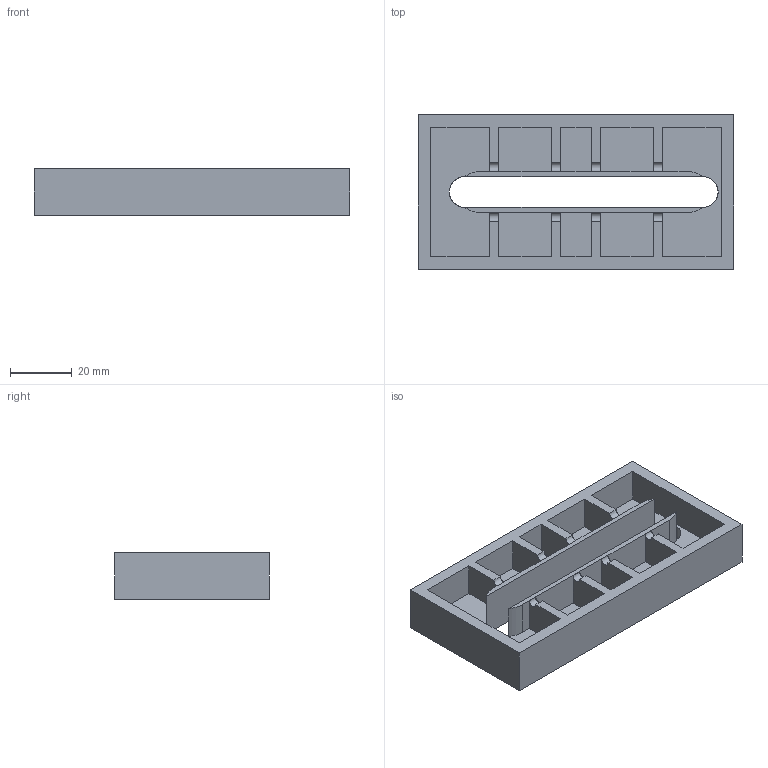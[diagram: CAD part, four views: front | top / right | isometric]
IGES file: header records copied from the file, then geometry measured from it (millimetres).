
Start section: SolidWorks IGES file using analytic representation for surfaces
Global section: file name: C:\Documents and Settings\ARGE\Desktop\yeni katalog tolgay düzenli\B kataloðu\KONSOL TABANI\export\210 410 300.IGS; native system: SolidWorks 2006 by SolidWorks Corporation; preprocessor: SolidWorks 2006 by SolidWorks Corporation; author: ARGE2; date: 060911.191716; units: millimetre
Bounding box: 102 x 50 x 15 mm (x, y, z)
Surface area: 22448.5 mm2 (no closed solid volume)
Topology: 0 solids, 0 shells, 67 faces, 704 edges, 704 vertices
Faces by surface type: bspline 52, revolution 15
